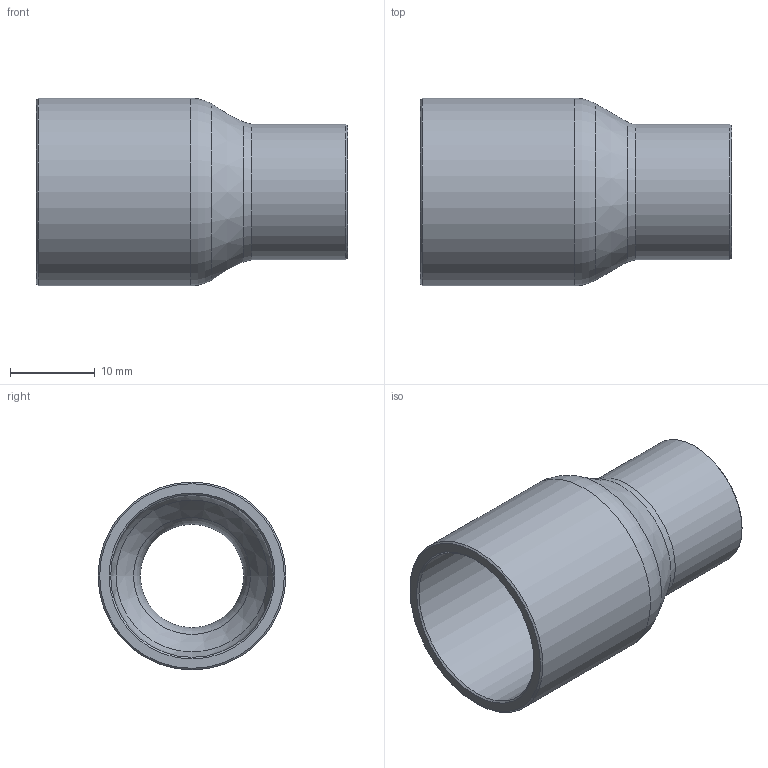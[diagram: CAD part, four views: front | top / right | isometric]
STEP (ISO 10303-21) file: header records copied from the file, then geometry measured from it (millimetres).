
FILE_DESCRIPTION((''),'2;1');
FILE_NAME('G:\SANHA-Ternat\Technik\Management\Bouwmaten + markeringen\z-maattekeningen 3D\29000s\292437812_3d.stp','2017-08-03T15:57:21',('vdvijverd'),(''),'Autodesk Inventor 2009','Autodesk Inventor 2009','');
FILE_SCHEMA(('AUTOMOTIVE_DESIGN { 1 0 10303 214 1 1 1 1 }'));
Length unit declared in the file: millimetre
Products named in the file (1): 292437812_3d
Bounding box: 36.8 x 22.23 x 22.23 mm (x, y, z)
Volume: 3344.8 mm3; surface area: 4433.6 mm2
Topology: 1 solids, 1 shells, 17 faces, 32 edges, 17 vertices
Faces by surface type: cone 6, cylinder 4, bspline 3, plane 2, torus 2
Full cylindrical faces by diameter (mm): 12.82 x1, 16.02 x1, 19.225 x1, 22.225 x1
Entity records: 494 total; most frequent: CARTESIAN_POINT 184, DIRECTION 64, ORIENTED_EDGE 34, EDGE_LOOP 34, AXIS2_PLACEMENT_3D 32, VERTEX_POINT 17, CIRCLE 17, EDGE_CURVE 17
